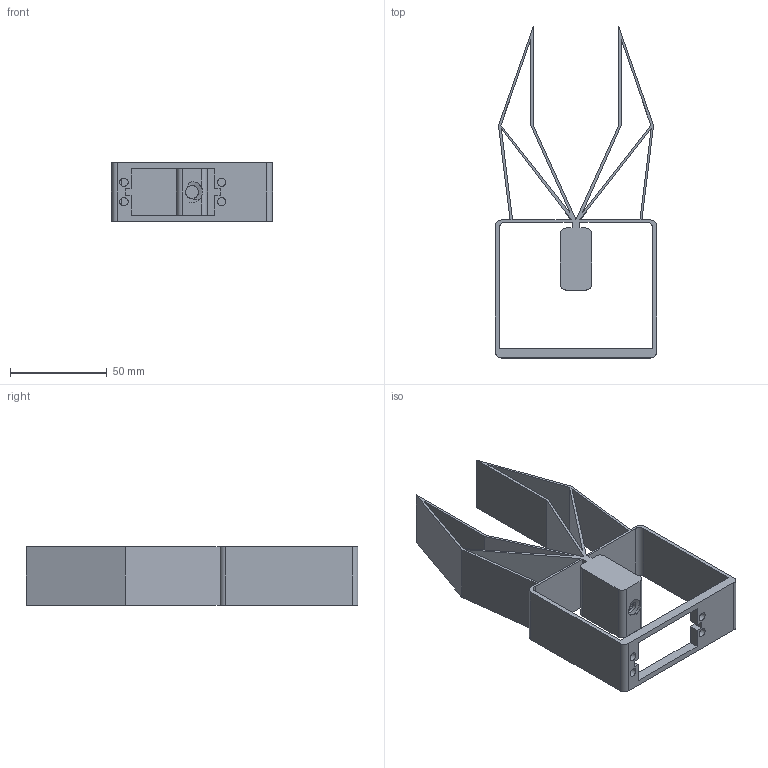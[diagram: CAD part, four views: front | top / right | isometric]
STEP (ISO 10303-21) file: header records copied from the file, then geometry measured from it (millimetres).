
FILE_DESCRIPTION(/* description */ ('STEP AP242 Edition 2','CAx-IF Rec.Pracs.---Representation and Presentation of Product Manufacturing Information (PMI)---4.0---2014-10-13','CAx-IF Rec.Pracs.---3D Tessellated Geometry---0.4---2014-09-14','2;1','CAx-IF Rec.Pracs.---User Defined Attributes---1.5---2016-08-15'),/* implementation_level */ '2;1');
FILE_NAME(/* name */ 'Assembly 1 - Part 1',/* time_stamp */ '2026-08-25T12:59:14Z',/* author */ (''),/* organization */ (''),/* preprocessor_version */ 'ST-DEVELOPER v20',/* originating_system */ 'ONSHAPE BY PTC INC, 1.219',/* authorisation */ ' ');
FILE_SCHEMA (('AP242_MANAGED_MODEL_BASED_3D_ENGINEERING_MIM_LF { 1 0 10303 442 3 1 4 }'));
Length unit declared in the file: metre
Products named in the file (1): Part 1
Bounding box: 83 x 171.1 x 30 mm (x, y, z)
Volume: 50728.8 mm3; surface area: 54820.5 mm2
Topology: 1 solids, 1 shells, 72 faces, 214 edges, 144 vertices
Faces by surface type: plane 54, cylinder 16, bspline 2
Full cylindrical faces by diameter (mm): 4.3 x4
Entity records: 3224 total; most frequent: CARTESIAN_POINT 1264, ORIENTED_EDGE 412, DIRECTION 372, EDGE_CURVE 206, LINE 164, VECTOR 164, VERTEX_POINT 140, AXIS2_PLACEMENT_3D 104
